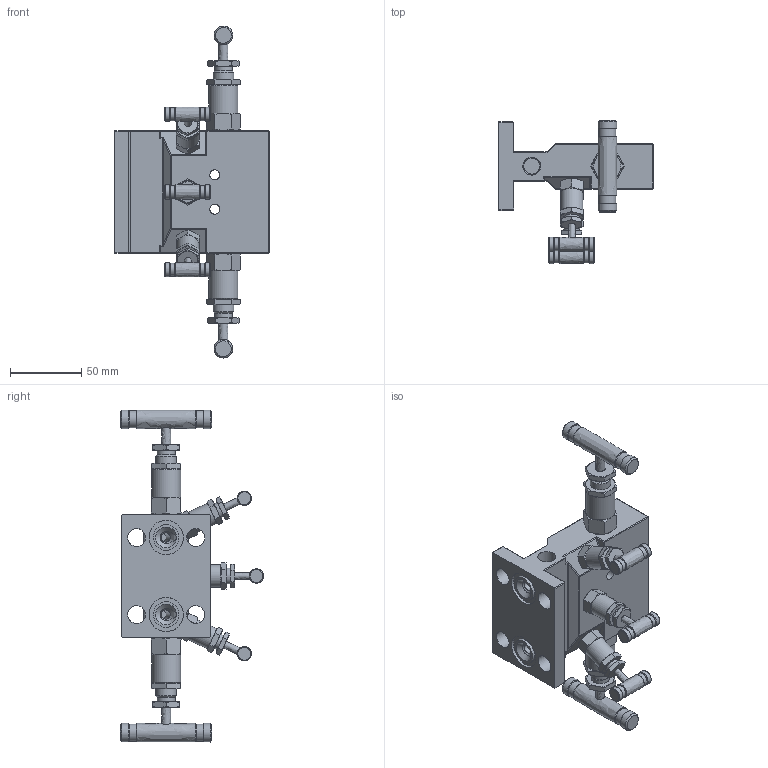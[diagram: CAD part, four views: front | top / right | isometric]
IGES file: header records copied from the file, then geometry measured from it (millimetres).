
Global section: file name: SM5VF-F-8N-S316; native system: Autodesk Inventor 2016; preprocessor: unknown; author: 이승민,,11,0; organization: 20161214.073726; date: 20161216.192526; units: millimetre
Bounding box: 108 x 100.22 x 232.52 mm (x, y, z)
Volume: 335978.1 mm3; surface area: 74319 mm2
Topology: 6 solids, 6 shells, 561 faces, 1372 edges, 886 vertices
Faces by surface type: bspline 561
